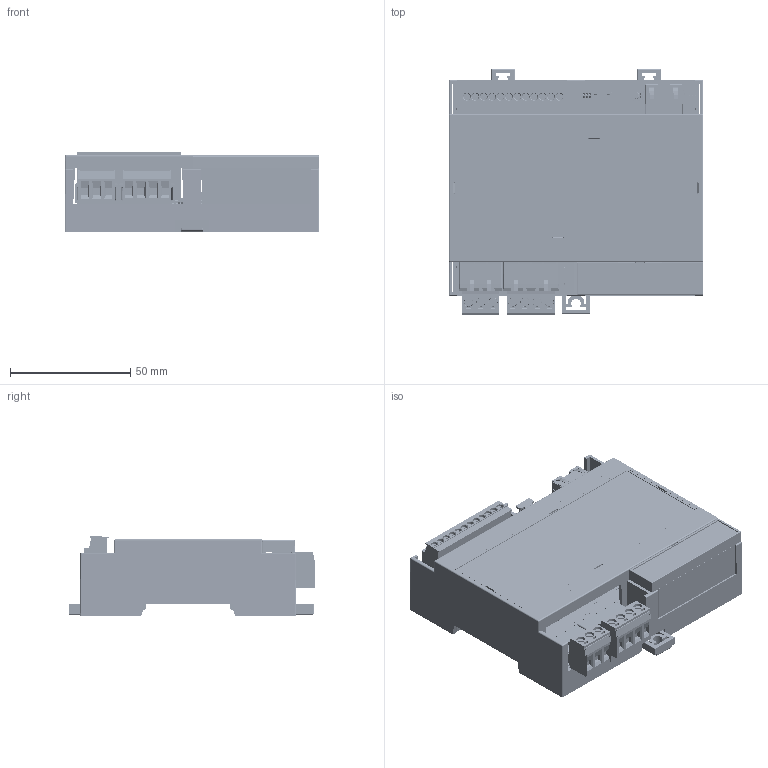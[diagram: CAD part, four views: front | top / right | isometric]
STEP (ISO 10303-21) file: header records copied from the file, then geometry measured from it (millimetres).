
FILE_DESCRIPTION(/* description */ (''),/* implementation_level */ '2;1');
FILE_NAME(/* name */ 'C202B.step',/* time_stamp */ '2023-02-16T17:36:47+01:00',/* author */ (''),/* organization */ (''),/* preprocessor_version */ 'ST-DEVELOPER v19.2',/* originating_system */ 'Autodesk Translation Framework v11.17.0.187',/* authorisation */ '');
FILE_SCHEMA (('AUTOMOTIVE_DESIGN { 1 0 10303 214 3 1 1 }'));
Products named in the file (90): C202B; CASE; 00022731; 00006744; 00006713; 00006714; 00006841; COVER; TEXT v8; C202B v5; Board (1); Packages (1); CONM12; BUTTON (1); Frame (1); Cover (1); Stem (1); Terminal (1); QFP144; SD_CONN; 5033981892; STRIP_M23 (1); M50-350-MLD (2); M50-360-CONTACT (2); STRIP_F23 (1); _CLP-103-2-F-D-BE_terminal (1); _C-106-22-103-BE_Pin (1); STRIP_F25; _CLP-105-2-F-D-BE_terminal; _C-106-22-105-BE_Pin; CONM3; CC_2; Bohrloch; CCA-2.5-G-5; CONM4; CC_2.5-LH-Stift; CCA-2.5-4-G-5; Bohrloch (1); CHIP-LED0603_G; User Library-LED_0603_G_Pocket002 (1)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
Assembly tree (145 placements, depth 6):
  C202B
    CASE
      00022731
      00006744
      00006713
      00006714  x2
      00006841
      COVER
      TEXT v8
    C202B v5
      Board (1)
      Packages (1)
        CONM12
        BUTTON (1)
          Frame (1)
          Cover (1)
          Stem (1)
          Terminal (1)  x4
        QFP144
        SD_CONN
          5033981892
        STRIP_M23 (1)  x2
          M50-350-MLD (2)
          M50-360-CONTACT (2)
        STRIP_F23 (1)  x2
          _CLP-103-2-F-D-BE_terminal (1)
          _C-106-22-103-BE_Pin (1)
        STRIP_F25  x3
          _CLP-105-2-F-D-BE_terminal
          _C-106-22-105-BE_Pin
        CONM3
          Bohrloch  x3
          CC_2  x3
          CCA-2.5-G-5
        CONM4
          CC_2.5-LH-Stift  x4
          CCA-2.5-4-G-5
          Bohrloch (1)  x4
        CHIP-LED0603_G  x2
          User Library-LED_0603_G_Pocket002 (1)
          User Library-LED_0603_G_Pad004 (1)
          User Library-LED_0603_G_Fillet (1)
          User Library-LED_0603_G_Pocket001 (1)
          User Library-LED_0603_G_Pad (1)
        CHIP-LED0603_R
          User Library-LED_0603_G_Pocket002 (1) (1)
          User Library-LED_0603_G_Pad004 (1) (1)
          User Library-LED_0603_G_Fillet (1) (1)
          User Library-LED_0603_G_Pocket001 (1) (1)
          User Library-LED_0603_G_Pad (1) (1)
        CHIP-LED1210_RG  x6
          patte_1
          corps_1
        DIP-SWITCH
          Actuator
          Contact
          Lead_Terminal 01
          Housing_01
          Terminal_01
          Terminal_01 (1)
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Bounding box: 106.2 x 102.53 x 33.25 mm (x, y, z)
Volume: 81064.2 mm3; surface area: 119931.2 mm2
Topology: 337 solids, 422 shells, 19408 faces, 53040 edges, 34660 vertices
Faces by surface type: plane 14498, cylinder 3979, bspline 698, sphere 99, cone 69, torus 65
Full cylindrical faces by diameter (mm): 0.08 x3, 0.203 x172, 0.3 x4, 0.4 x1, 0.406 x867, 0.5 x1, 0.75 x2, 0.889 x2, 1 x1, 1.016 x1, 1.02 x6, 1.2 x2, 1.397 x24, 1.5 x3, 1.524 x19, 1.6 x21, 2 x3, 2.032 x12, 2.794 x12, 2.8 x2, 3 x2, 3.048 x7, 3.81 x7, 5.5 x2
Entity records: 542761 total; most frequent: CARTESIAN_POINT 111905, ORIENTED_EDGE 89838, DIRECTION 82750, EDGE_CURVE 45113, LINE 36074, VECTOR 36074, VERTEX_POINT 29713, AXIS2_PLACEMENT_3D 23338
